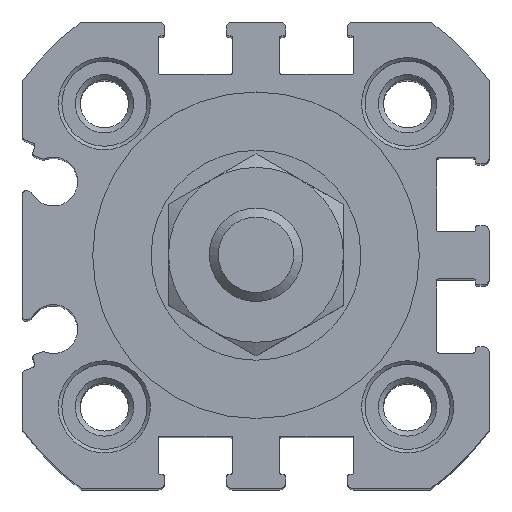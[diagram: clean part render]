
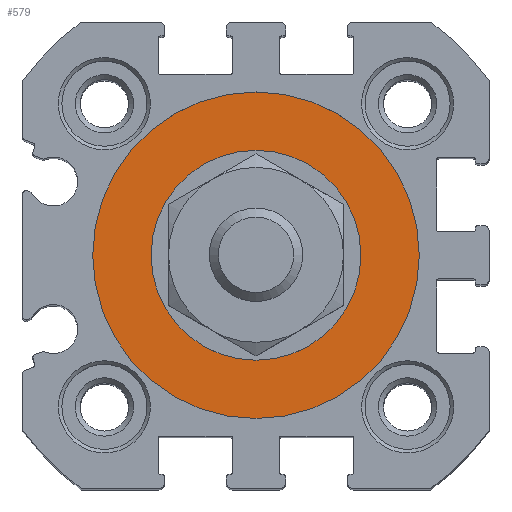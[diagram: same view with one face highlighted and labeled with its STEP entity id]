
A CAD part, top view. The second image highlights one B-rep face of the part: STEP entity #579.
In plain terms, the highlighted planar face has unit normal (0, 0, 1).
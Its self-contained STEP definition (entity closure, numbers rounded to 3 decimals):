
#579 = ADVANCED_FACE( '', ( #1249, #1250 ), #1251, .T. );
#1249 = FACE_BOUND( '', #1979, .T. );
#1250 = FACE_OUTER_BOUND( '', #1980, .T. );
#1251 = PLANE( '', #1981 );
#1979 = EDGE_LOOP( '', ( #3561 ) );
#1980 = EDGE_LOOP( '', ( #3562 ) );
#1981 = AXIS2_PLACEMENT_3D( '', #3563, #3564, #3565 );
#3561 = ORIENTED_EDGE( '', *, *, #4669, .F. );
#3562 = ORIENTED_EDGE( '', *, *, #4298, .T. );
#3563 = CARTESIAN_POINT( '', ( 0., 0., -1.5 ) );
#3564 = DIRECTION( '', ( 0., 0., 1. ) );
#3565 = DIRECTION( '', ( 1., 0., 0. ) );
#4298 = EDGE_CURVE( '', #5210, #5210, #5211, .T. );
#4669 = EDGE_CURVE( '', #5723, #5723, #5724, .T. );
#5210 = VERTEX_POINT( '', #6403 );
#5211 = CIRCLE( '', #6404, 14. );
#5723 = VERTEX_POINT( '', #7165 );
#5724 = CIRCLE( '', #7166, 9. );
#6403 = CARTESIAN_POINT( '', ( 14., 0., -1.5 ) );
#6404 = AXIS2_PLACEMENT_3D( '', #7724, #7725, #7726 );
#7165 = CARTESIAN_POINT( '', ( 9., 0., -1.5 ) );
#7166 = AXIS2_PLACEMENT_3D( '', #8146, #8147, #8148 );
#7724 = CARTESIAN_POINT( '', ( 0., 0., -1.5 ) );
#7725 = DIRECTION( '', ( 0., 0., 1. ) );
#7726 = DIRECTION( '', ( 1., 0., 0. ) );
#8146 = CARTESIAN_POINT( '', ( 0., 0., -1.5 ) );
#8147 = DIRECTION( '', ( 0., 0., 1. ) );
#8148 = DIRECTION( '', ( 1., 0., 0. ) );
